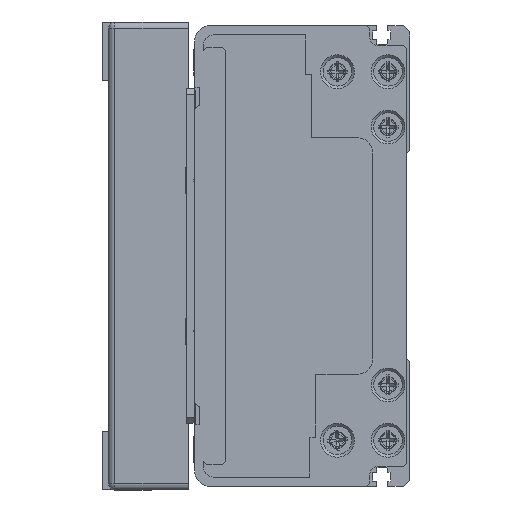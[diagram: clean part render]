
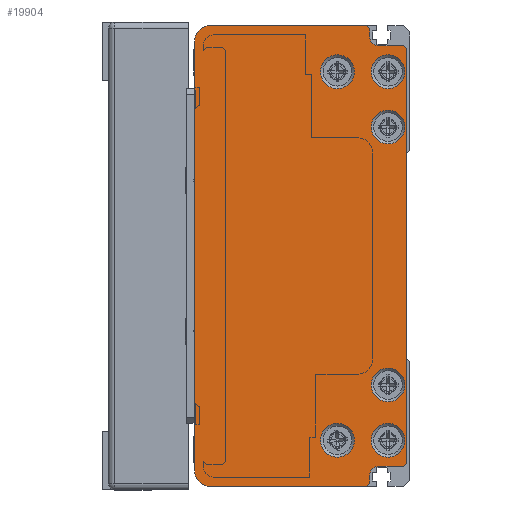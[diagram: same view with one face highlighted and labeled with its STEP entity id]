
A CAD part, left-side view. The second image highlights one B-rep face of the part: STEP entity #19904.
In plain terms, the highlighted planar face has unit normal (-1, 0, 0) as drawn and (0, 0, -1) by its records, which use the part's own axes.
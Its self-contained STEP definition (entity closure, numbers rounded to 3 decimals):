
#934=LINE('',#28802,#2599);
#935=LINE('',#28806,#2600);
#936=LINE('',#28808,#2601);
#937=LINE('',#28810,#2602);
#938=LINE('',#28814,#2603);
#939=LINE('',#28816,#2604);
#940=LINE('',#28818,#2605);
#941=LINE('',#28820,#2606);
#942=LINE('',#28822,#2607);
#943=LINE('',#28826,#2608);
#944=LINE('',#28828,#2609);
#945=LINE('',#28830,#2610);
#2599=VECTOR('',#23391,140.);
#2600=VECTOR('',#23394,51.);
#2601=VECTOR('',#23395,1.414);
#2602=VECTOR('',#23396,2.5);
#2603=VECTOR('',#23399,8.);
#2604=VECTOR('',#23400,1.414);
#2605=VECTOR('',#23401,135.);
#2606=VECTOR('',#23402,1.414);
#2607=VECTOR('',#23403,8.);
#2608=VECTOR('',#23406,2.5);
#2609=VECTOR('',#23407,1.414);
#2610=VECTOR('',#23408,51.);
#4217=PLANE('',#21278);
#4848=FACE_BOUND('',#6704,.T.);
#4849=FACE_BOUND('',#6705,.T.);
#4850=FACE_BOUND('',#6706,.T.);
#4851=FACE_BOUND('',#6707,.T.);
#4852=FACE_BOUND('',#6708,.T.);
#4853=FACE_BOUND('',#6709,.T.);
#5415=FACE_OUTER_BOUND('',#6703,.T.);
#6703=EDGE_LOOP('',(#13983,#13984,#13985,#13986,#13987,#13988,#13989,#13990,
#13991,#13992,#13993,#13994,#13995,#13996,#13997,#13998));
#6704=EDGE_LOOP('',(#13999));
#6705=EDGE_LOOP('',(#14000));
#6706=EDGE_LOOP('',(#14001));
#6707=EDGE_LOOP('',(#14002));
#6708=EDGE_LOOP('',(#14003));
#6709=EDGE_LOOP('',(#14004));
#8221=CIRCLE('',#21279,5.);
#8222=CIRCLE('',#21280,3.);
#8223=CIRCLE('',#21281,3.);
#8224=CIRCLE('',#21282,5.);
#8225=CIRCLE('',#21283,5.5);
#8226=CIRCLE('',#21284,5.5);
#8227=CIRCLE('',#21285,5.5);
#8228=CIRCLE('',#21286,5.5);
#8229=CIRCLE('',#21287,5.5);
#8230=CIRCLE('',#21288,5.5);
#8917=VERTEX_POINT('',#28800);
#8918=VERTEX_POINT('',#28801);
#8919=VERTEX_POINT('',#28803);
#8920=VERTEX_POINT('',#28805);
#8921=VERTEX_POINT('',#28807);
#8922=VERTEX_POINT('',#28809);
#8923=VERTEX_POINT('',#28811);
#8924=VERTEX_POINT('',#28813);
#8925=VERTEX_POINT('',#28815);
#8926=VERTEX_POINT('',#28817);
#8927=VERTEX_POINT('',#28819);
#8928=VERTEX_POINT('',#28821);
#8929=VERTEX_POINT('',#28823);
#8930=VERTEX_POINT('',#28825);
#8931=VERTEX_POINT('',#28827);
#8932=VERTEX_POINT('',#28829);
#8933=VERTEX_POINT('',#28832);
#8934=VERTEX_POINT('',#28834);
#8935=VERTEX_POINT('',#28836);
#8936=VERTEX_POINT('',#28838);
#8937=VERTEX_POINT('',#28840);
#8938=VERTEX_POINT('',#28842);
#10957=EDGE_CURVE('',#8917,#8918,#934,.T.);
#10958=EDGE_CURVE('',#8918,#8919,#8221,.T.);
#10959=EDGE_CURVE('',#8919,#8920,#935,.T.);
#10960=EDGE_CURVE('',#8920,#8921,#936,.T.);
#10961=EDGE_CURVE('',#8921,#8922,#937,.T.);
#10962=EDGE_CURVE('',#8922,#8923,#8222,.T.);
#10963=EDGE_CURVE('',#8923,#8924,#938,.T.);
#10964=EDGE_CURVE('',#8924,#8925,#939,.T.);
#10965=EDGE_CURVE('',#8925,#8926,#940,.T.);
#10966=EDGE_CURVE('',#8926,#8927,#941,.T.);
#10967=EDGE_CURVE('',#8927,#8928,#942,.T.);
#10968=EDGE_CURVE('',#8928,#8929,#8223,.T.);
#10969=EDGE_CURVE('',#8929,#8930,#943,.T.);
#10970=EDGE_CURVE('',#8930,#8931,#944,.T.);
#10971=EDGE_CURVE('',#8931,#8932,#945,.T.);
#10972=EDGE_CURVE('',#8932,#8917,#8224,.T.);
#10973=EDGE_CURVE('',#8933,#8933,#8225,.T.);
#10974=EDGE_CURVE('',#8934,#8934,#8226,.T.);
#10975=EDGE_CURVE('',#8935,#8935,#8227,.T.);
#10976=EDGE_CURVE('',#8936,#8936,#8228,.T.);
#10977=EDGE_CURVE('',#8937,#8937,#8229,.T.);
#10978=EDGE_CURVE('',#8938,#8938,#8230,.T.);
#13983=ORIENTED_EDGE('',*,*,#10957,.T.);
#13984=ORIENTED_EDGE('',*,*,#10958,.T.);
#13985=ORIENTED_EDGE('',*,*,#10959,.T.);
#13986=ORIENTED_EDGE('',*,*,#10960,.T.);
#13987=ORIENTED_EDGE('',*,*,#10961,.T.);
#13988=ORIENTED_EDGE('',*,*,#10962,.T.);
#13989=ORIENTED_EDGE('',*,*,#10963,.T.);
#13990=ORIENTED_EDGE('',*,*,#10964,.T.);
#13991=ORIENTED_EDGE('',*,*,#10965,.T.);
#13992=ORIENTED_EDGE('',*,*,#10966,.T.);
#13993=ORIENTED_EDGE('',*,*,#10967,.T.);
#13994=ORIENTED_EDGE('',*,*,#10968,.T.);
#13995=ORIENTED_EDGE('',*,*,#10969,.T.);
#13996=ORIENTED_EDGE('',*,*,#10970,.T.);
#13997=ORIENTED_EDGE('',*,*,#10971,.T.);
#13998=ORIENTED_EDGE('',*,*,#10972,.T.);
#13999=ORIENTED_EDGE('',*,*,#10973,.T.);
#14000=ORIENTED_EDGE('',*,*,#10974,.T.);
#14001=ORIENTED_EDGE('',*,*,#10975,.T.);
#14002=ORIENTED_EDGE('',*,*,#10976,.T.);
#14003=ORIENTED_EDGE('',*,*,#10977,.T.);
#14004=ORIENTED_EDGE('',*,*,#10978,.T.);
#19904=ADVANCED_FACE('',(#5415,#4848,#4849,#4850,#4851,#4852,#4853),#4217,
 .F.);
#21278=AXIS2_PLACEMENT_3D('',#28799,#23389,#23390);
#21279=AXIS2_PLACEMENT_3D('',#28804,#23392,#23393);
#21280=AXIS2_PLACEMENT_3D('',#28812,#23397,#23398);
#21281=AXIS2_PLACEMENT_3D('',#28824,#23404,#23405);
#21282=AXIS2_PLACEMENT_3D('',#28831,#23409,#23410);
#21283=AXIS2_PLACEMENT_3D('',#28833,#23411,#23412);
#21284=AXIS2_PLACEMENT_3D('',#28835,#23413,#23414);
#21285=AXIS2_PLACEMENT_3D('',#28837,#23415,#23416);
#21286=AXIS2_PLACEMENT_3D('',#28839,#23417,#23418);
#21287=AXIS2_PLACEMENT_3D('',#28841,#23419,#23420);
#21288=AXIS2_PLACEMENT_3D('',#28843,#23421,#23422);
#23389=DIRECTION('center_axis',(0.,0.,
1.));
#23390=DIRECTION('ref_axis',(1.,0.,0.));
#23391=DIRECTION('',(1.,0.,0.));
#23392=DIRECTION('center_axis',(0.,0.,
-1.));
#23393=DIRECTION('ref_axis',(-1.,0.,0.));
#23394=DIRECTION('',(0.,-1.,0.));
#23395=DIRECTION('',(-0.707,-0.707,0.));
#23396=DIRECTION('',(-1.,0.,0.));
#23397=DIRECTION('center_axis',(0.,0.,
1.));
#23398=DIRECTION('ref_axis',(0.,1.,0.));
#23399=DIRECTION('',(0.,-1.,0.));
#23400=DIRECTION('',(-0.707,-0.707,0.));
#23401=DIRECTION('',(-1.,0.,0.));
#23402=DIRECTION('',(-0.707,0.707,0.));
#23403=DIRECTION('',(0.,1.,0.));
#23404=DIRECTION('center_axis',(0.,0.,
1.));
#23405=DIRECTION('ref_axis',(1.,0.,0.));
#23406=DIRECTION('',(-1.,0.,0.));
#23407=DIRECTION('',(-0.707,0.707,0.));
#23408=DIRECTION('',(0.,1.,0.));
#23409=DIRECTION('center_axis',(0.,0.,
-1.));
#23410=DIRECTION('ref_axis',(0.,-1.,0.));
#23411=DIRECTION('center_axis',(0.,0.,
1.));
#23412=DIRECTION('ref_axis',(-1.,0.,0.));
#23413=DIRECTION('center_axis',(0.,0.,
1.));
#23414=DIRECTION('ref_axis',(-1.,0.,0.));
#23415=DIRECTION('center_axis',(0.,0.,
1.));
#23416=DIRECTION('ref_axis',(-1.,0.,0.));
#23417=DIRECTION('center_axis',(0.,0.,
1.));
#23418=DIRECTION('ref_axis',(-1.,0.,0.));
#23419=DIRECTION('center_axis',(0.,0.,
1.));
#23420=DIRECTION('ref_axis',(-1.,0.,0.));
#23421=DIRECTION('center_axis',(0.,0.,
1.));
#23422=DIRECTION('ref_axis',(-1.,0.,0.));
#28799=CARTESIAN_POINT('Origin',(0.25,38.047,-1319.));
#28800=CARTESIAN_POINT('',(-69.75,72.25,-1319.));
#28801=CARTESIAN_POINT('',(70.25,72.25,-1319.));
#28802=CARTESIAN_POINT('',(-69.75,72.25,-1319.));
#28803=CARTESIAN_POINT('',(75.25,67.25,-1319.));
#28804=CARTESIAN_POINT('Origin',(70.25,67.25,-1319.));
#28805=CARTESIAN_POINT('',(75.25,16.25,-1319.));
#28806=CARTESIAN_POINT('',(75.25,67.25,-1319.));
#28807=CARTESIAN_POINT('',(74.25,15.25,-1319.));
#28808=CARTESIAN_POINT('',(75.25,16.25,-1319.));
#28809=CARTESIAN_POINT('',(71.75,15.25,-1319.));
#28810=CARTESIAN_POINT('',(74.25,15.25,-1319.));
#28811=CARTESIAN_POINT('',(68.75,12.25,-1319.));
#28812=CARTESIAN_POINT('Origin',(71.75,12.25,-1319.));
#28813=CARTESIAN_POINT('',(68.75,4.25,-1319.));
#28814=CARTESIAN_POINT('',(68.75,12.25,-1319.));
#28815=CARTESIAN_POINT('',(67.75,3.25,-1319.));
#28816=CARTESIAN_POINT('',(68.75,4.25,-1319.));
#28817=CARTESIAN_POINT('',(-67.25,3.25,-1319.));
#28818=CARTESIAN_POINT('',(67.75,3.25,-1319.));
#28819=CARTESIAN_POINT('',(-68.25,4.25,-1319.));
#28820=CARTESIAN_POINT('',(-67.25,3.25,-1319.));
#28821=CARTESIAN_POINT('',(-68.25,12.25,-1319.));
#28822=CARTESIAN_POINT('',(-68.25,4.25,-1319.));
#28823=CARTESIAN_POINT('',(-71.25,15.25,-1319.));
#28824=CARTESIAN_POINT('Origin',(-71.25,12.25,-1319.));
#28825=CARTESIAN_POINT('',(-73.75,15.25,-1319.));
#28826=CARTESIAN_POINT('',(-71.25,15.25,-1319.));
#28827=CARTESIAN_POINT('',(-74.75,16.25,-1319.));
#28828=CARTESIAN_POINT('',(-73.75,15.25,-1319.));
#28829=CARTESIAN_POINT('',(-74.75,67.25,-1319.));
#28830=CARTESIAN_POINT('',(-74.75,16.25,-1319.));
#28831=CARTESIAN_POINT('Origin',(-69.75,67.25,-1319.));
#28832=CARTESIAN_POINT('',(-47.25,9.25,-1319.));
#28833=CARTESIAN_POINT('Origin',(-41.75,9.25,-1319.));
#28834=CARTESIAN_POINT('',(36.75,9.25,-1319.));
#28835=CARTESIAN_POINT('Origin',(42.25,9.25,-1319.));
#28836=CARTESIAN_POINT('',(-65.25,25.75,-1319.));
#28837=CARTESIAN_POINT('Origin',(-59.75,25.75,-1319.));
#28838=CARTESIAN_POINT('',(54.75,25.75,-1319.));
#28839=CARTESIAN_POINT('Origin',(60.25,25.75,-1319.));
#28840=CARTESIAN_POINT('',(-65.25,9.25,-1319.));
#28841=CARTESIAN_POINT('Origin',(-59.75,9.25,-1319.));
#28842=CARTESIAN_POINT('',(54.75,9.25,-1319.));
#28843=CARTESIAN_POINT('Origin',(60.25,9.25,-1319.));
